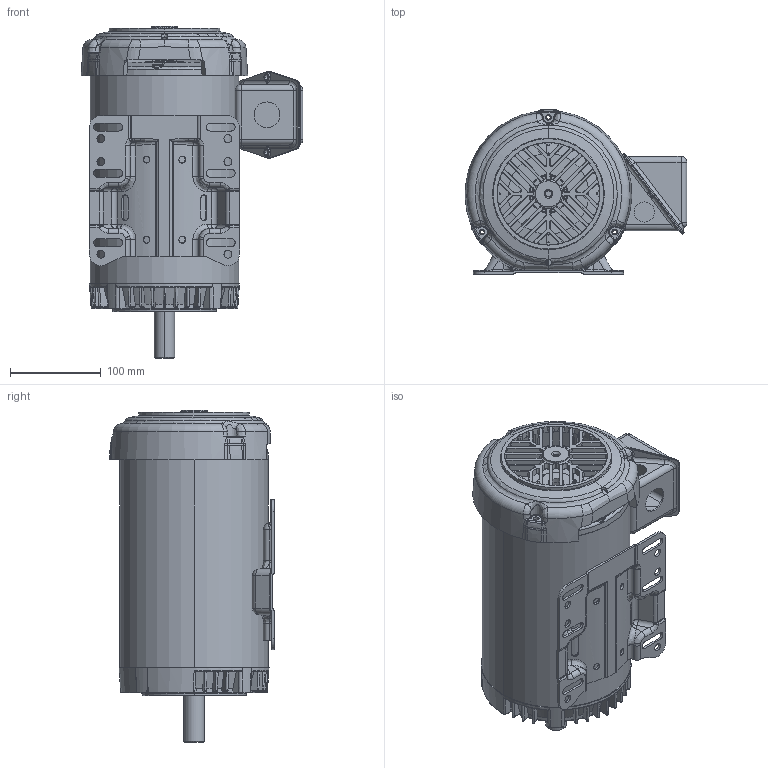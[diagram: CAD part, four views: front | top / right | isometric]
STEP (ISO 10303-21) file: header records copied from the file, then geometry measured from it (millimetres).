
FILE_DESCRIPTION((''),'2;1');
FILE_NAME('140_CFACE_ASM_ASM','2021-04-26T11:09:14',('EMD2341'),('Nidec Motor Corporation'),'CREO PARAMETRIC BY PTC INC, 2019080','CREO PARAMETRIC BY PTC INC, 2019080','');
FILE_SCHEMA(('CONFIG_CONTROL_DESIGN'));
Length unit declared in the file: inch
Products named in the file (14): 145_FRAME; 0399601; 0912536; 0387280-BKT_AF25; I20258935000_AF25; 0387281_ASM; 0343740; C18747690_ENCL_AF0; C18747690_INS4_AF0; S33749499_002_ASM; 0774783; B35796439; 0470137; 140_CFACE_ASM_ASM
Assembly tree (13 placements, depth 3):
  140_CFACE_ASM_ASM
    145_FRAME
    0399601
    0912536
    0387281_ASM
      0387280-BKT_AF25
      I20258935000_AF25
    0343740
    S33749499_002_ASM
      C18747690_ENCL_AF0
      C18747690_INS4_AF0
    0774783
    B35796439
    0470137
Bounding box: 243.75 x 180.78 x 365.06 mm (x, y, z)
Volume: 938769.4 mm3; surface area: 656477.9 mm2
Topology: 13 solids, 13 shells, 3233 faces, 7958 edges, 4747 vertices
Faces by surface type: bspline 1219, cylinder 623, plane 609, torus 362, cone 290, sphere 116, extrusion 12, revolution 2
Entity records: 142590 total; most frequent: CARTESIAN_POINT 74885, ORIENTED_EDGE 15892, DIRECTION 11925, EDGE_CURVE 7946, AXIS2_PLACEMENT_3D 5073, VERTEX_POINT 4747, EDGE_LOOP 3397, FACE_OUTER_BOUND 3233
